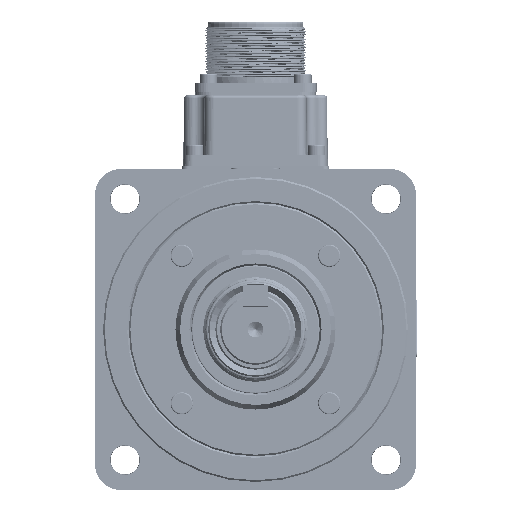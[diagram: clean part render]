
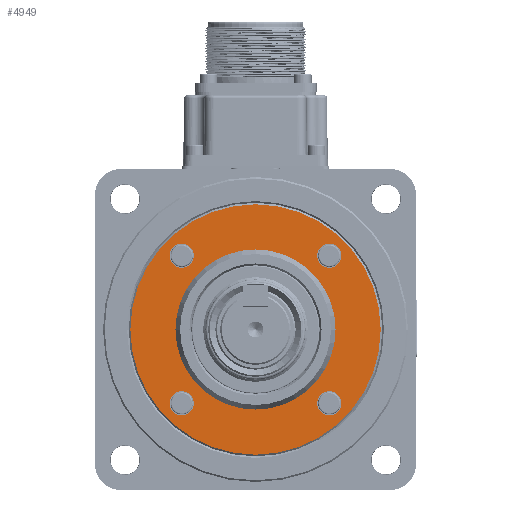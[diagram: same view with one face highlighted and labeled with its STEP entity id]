
A CAD part, left-side view. The second image highlights one B-rep face of the part: STEP entity #4949.
In plain terms, the highlighted planar face has unit normal (-1, 0, 0) as drawn and (0, -1, 0) by its records, which use the part's own axes.
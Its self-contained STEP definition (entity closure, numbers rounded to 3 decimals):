
#4949 = ADVANCED_FACE( '', ( #11448, #11449, #11450, #11451, #11452, #11453 ), #11454, .T. );
#11448 = FACE_OUTER_BOUND( '', #21788, .T. );
#11449 = FACE_BOUND( '', #21789, .T. );
#11450 = FACE_BOUND( '', #21790, .T. );
#11451 = FACE_BOUND( '', #21791, .T. );
#11452 = FACE_BOUND( '', #21792, .T. );
#11453 = FACE_BOUND( '', #21793, .T. );
#11454 = PLANE( '', #21794 );
#21788 = EDGE_LOOP( '', ( #41845 ) );
#21789 = EDGE_LOOP( '', ( #41846 ) );
#21790 = EDGE_LOOP( '', ( #41847 ) );
#21791 = EDGE_LOOP( '', ( #41848 ) );
#21792 = EDGE_LOOP( '', ( #41849 ) );
#21793 = EDGE_LOOP( '', ( #41850 ) );
#21794 = AXIS2_PLACEMENT_3D( '', #41851, #41852, #41853 );
#41845 = ORIENTED_EDGE( '', *, *, #65241, .T. );
#41846 = ORIENTED_EDGE( '', *, *, #65242, .T. );
#41847 = ORIENTED_EDGE( '', *, *, #65243, .T. );
#41848 = ORIENTED_EDGE( '', *, *, #65244, .T. );
#41849 = ORIENTED_EDGE( '', *, *, #65245, .T. );
#41850 = ORIENTED_EDGE( '', *, *, #65246, .F. );
#41851 = CARTESIAN_POINT( '', ( 0., 0.5, 39.5 ) );
#41852 = DIRECTION( '', ( 0., -1., 0. ) );
#41853 = DIRECTION( '', ( 0., 0., -1. ) );
#65241 = EDGE_CURVE( '', #76320, #76320, #76321, .T. );
#65242 = EDGE_CURVE( '', #76322, #76322, #76323, .F. );
#65243 = EDGE_CURVE( '', #76324, #76324, #76325, .F. );
#65244 = EDGE_CURVE( '', #76326, #76326, #76327, .F. );
#65245 = EDGE_CURVE( '', #76328, #76328, #76329, .F. );
#65246 = EDGE_CURVE( '', #76330, #76330, #76331, .T. );
#76320 = VERTEX_POINT( '', #92622 );
#76321 = CIRCLE( '', #92623, 39. );
#76322 = VERTEX_POINT( '', #92624 );
#76323 = CIRCLE( '', #92625, 3.75 );
#76324 = VERTEX_POINT( '', #92626 );
#76325 = CIRCLE( '', #92627, 3.75 );
#76326 = VERTEX_POINT( '', #92628 );
#76327 = CIRCLE( '', #92629, 3.75 );
#76328 = VERTEX_POINT( '', #92630 );
#76329 = CIRCLE( '', #92631, 3.75 );
#76330 = VERTEX_POINT( '', #92632 );
#76331 = CIRCLE( '', #92633, 24.943 );
#92622 = CARTESIAN_POINT( '', ( 0., 0.5, -39. ) );
#92623 = AXIS2_PLACEMENT_3D( '', #115924, #115925, #115926 );
#92624 = CARTESIAN_POINT( '', ( -22.981, 0.5, 19.231 ) );
#92625 = AXIS2_PLACEMENT_3D( '', #115927, #115928, #115929 );
#92626 = CARTESIAN_POINT( '', ( 22.981, 0.5, 19.231 ) );
#92627 = AXIS2_PLACEMENT_3D( '', #115930, #115931, #115932 );
#92628 = CARTESIAN_POINT( '', ( 22.981, 0.5, -26.731 ) );
#92629 = AXIS2_PLACEMENT_3D( '', #115933, #115934, #115935 );
#92630 = CARTESIAN_POINT( '', ( -22.981, 0.5, -26.731 ) );
#92631 = AXIS2_PLACEMENT_3D( '', #115936, #115937, #115938 );
#92632 = CARTESIAN_POINT( '', ( 0., 0.5, -24.943 ) );
#92633 = AXIS2_PLACEMENT_3D( '', #115939, #115940, #115941 );
#115924 = CARTESIAN_POINT( '', ( 0., 0.5, 0. ) );
#115925 = DIRECTION( '', ( 0., -1., 0. ) );
#115926 = DIRECTION( '', ( 0., 0., -1. ) );
#115927 = CARTESIAN_POINT( '', ( -22.981, 0.5, 22.981 ) );
#115928 = DIRECTION( '', ( 0., -1., 0. ) );
#115929 = DIRECTION( '', ( 0., 0., -1. ) );
#115930 = CARTESIAN_POINT( '', ( 22.981, 0.5, 22.981 ) );
#115931 = DIRECTION( '', ( 0., -1., 0. ) );
#115932 = DIRECTION( '', ( 0., 0., -1. ) );
#115933 = CARTESIAN_POINT( '', ( 22.981, 0.5, -22.981 ) );
#115934 = DIRECTION( '', ( 0., -1., 0. ) );
#115935 = DIRECTION( '', ( 0., 0., -1. ) );
#115936 = CARTESIAN_POINT( '', ( -22.981, 0.5, -22.981 ) );
#115937 = DIRECTION( '', ( 0., -1., 0. ) );
#115938 = DIRECTION( '', ( 0., 0., -1. ) );
#115939 = CARTESIAN_POINT( '', ( 0., 0.5, 0. ) );
#115940 = DIRECTION( '', ( 0., -1., 0. ) );
#115941 = DIRECTION( '', ( 0., 0., -1. ) );
